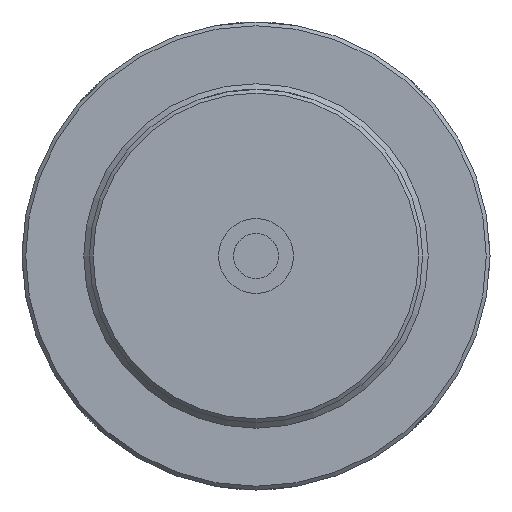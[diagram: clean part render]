
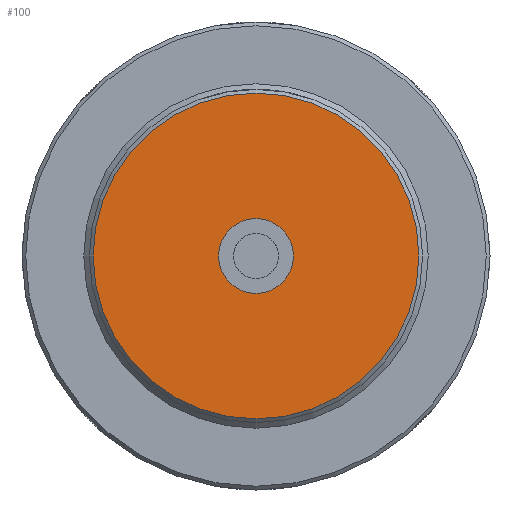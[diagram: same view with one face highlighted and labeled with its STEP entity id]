
A CAD part, left-side view. The second image highlights one B-rep face of the part: STEP entity #100.
In plain terms, the highlighted planar face has unit normal (-1, 0, 0).
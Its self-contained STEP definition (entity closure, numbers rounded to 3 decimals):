
#100 = ADVANCED_FACE( '', ( #203, #204 ), #205, .T. );
#203 = FACE_OUTER_BOUND( '', #344, .T. );
#204 = FACE_BOUND( '', #345, .T. );
#205 = PLANE( '', #346 );
#344 = EDGE_LOOP( '', ( #535 ) );
#345 = EDGE_LOOP( '', ( #536 ) );
#346 = AXIS2_PLACEMENT_3D( '', #537, #538, #539 );
#535 = ORIENTED_EDGE( '', *, *, #669, .T. );
#536 = ORIENTED_EDGE( '', *, *, #670, .F. );
#537 = CARTESIAN_POINT( '', ( 0., 0., 10. ) );
#538 = DIRECTION( '', ( -1., 0., 0. ) );
#539 = DIRECTION( '', ( 0., 0., 1. ) );
#669 = EDGE_CURVE( '', #743, #743, #744, .T. );
#670 = EDGE_CURVE( '', #745, #745, #746, .T. );
#743 = VERTEX_POINT( '', #1447 );
#744 = CIRCLE( '', #1448, 43.5 );
#745 = VERTEX_POINT( '', #1449 );
#746 = CIRCLE( '', #1450, 10. );
#1447 = CARTESIAN_POINT( '', ( 0., 0., 43.5 ) );
#1448 = AXIS2_PLACEMENT_3D( '', #1538, #1539, #1540 );
#1449 = CARTESIAN_POINT( '', ( 0., 0., 10. ) );
#1450 = AXIS2_PLACEMENT_3D( '', #1541, #1542, #1543 );
#1538 = CARTESIAN_POINT( '', ( 0., 0., 0. ) );
#1539 = DIRECTION( '', ( -1., 0., 0. ) );
#1540 = DIRECTION( '', ( 0., 0., 1. ) );
#1541 = CARTESIAN_POINT( '', ( 0., 0., 0. ) );
#1542 = DIRECTION( '', ( -1., 0., 0. ) );
#1543 = DIRECTION( '', ( 0., 0., 1. ) );
